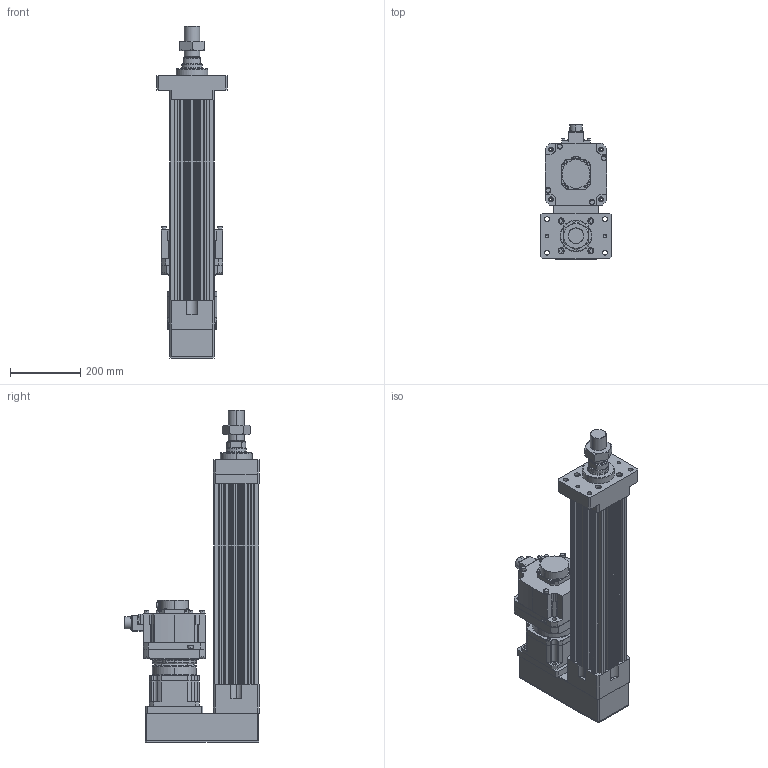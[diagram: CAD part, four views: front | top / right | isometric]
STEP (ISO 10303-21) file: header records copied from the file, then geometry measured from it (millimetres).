
FILE_DESCRIPTION (( 'STEP AP203' ), '1' );
FILE_NAME ('HES130FS(HS)-P350-W020G00-M-FMA.STEP', '2023-01-30T06:21:46', ( 'tms' ), ( '' ), 'SwSTEP 2.0', 'SolidWorks 2013', '' );
FILE_SCHEMA (( 'CONFIG_CONTROL_DESIGN' ));
Length unit declared in the file: millimetre
Products named in the file (9): P0403500801; HG-SR202; AB142-003[HG-SR352]; AB1421; HES130FS(HS)-P350-W020G00-M-FMA; HES130-P350-G142-FMA; M45X1.5P; HES130 ROD M ST350; P1301500001
Assembly tree (8 placements, depth 3):
  HES130FS(HS)-P350-W020G00-M-FMA
    HES130-P350-G142-FMA
    HES130 ROD M ST350
    M45X1.5P
    AB142-003[HG-SR352]
      AB1421
      P1301500001
      P0403500801
    HG-SR202
Bounding box: 200 x 381.85 x 944 mm (x, y, z)
Volume: 13290058.3 mm3; surface area: 1534277.3 mm2
Topology: 4 solids, 18 shells, 1401 faces, 3660 edges, 2370 vertices
Faces by surface type: cylinder 643, plane 530, cone 146, bspline 76, torus 6
Entity records: 52014 total; most frequent: CARTESIAN_POINT 16222, DIRECTION 7460, ORIENTED_EDGE 7222, EDGE_CURVE 3633, AXIS2_PLACEMENT_3D 2825, VERTEX_POINT 2370, LINE 1810, VECTOR 1810
